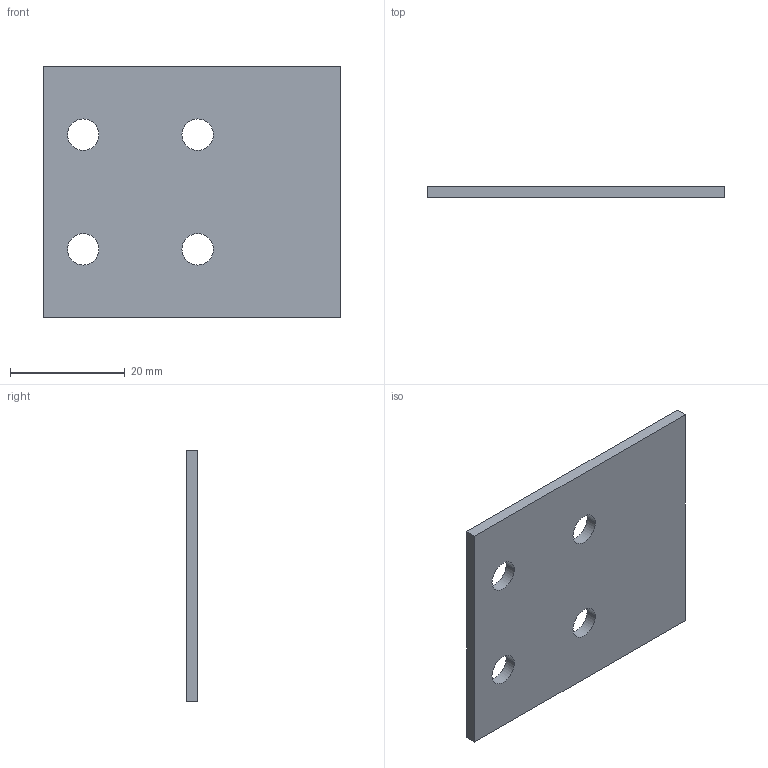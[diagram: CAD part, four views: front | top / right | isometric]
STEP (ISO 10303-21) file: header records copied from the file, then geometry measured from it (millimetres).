
FILE_DESCRIPTION( ( '' ), '1' );
FILE_NAME( 'E:/04 嬴檜蠱滌/0404 ZIMMER/040414 ZIMMER CAD download/Adapt plate/PLK for LKP, LKPS/PLK20-2.stp', '2020-04-16T10:19:39', ( '' ), ( '' ), ' ', ' ', ' ' );
FILE_SCHEMA( ( 'automotive_design' ) );
Length unit declared in the file: millimetre
Products named in the file (1): 1
Bounding box: 52 x 2 x 44 mm (x, y, z)
Volume: 4385.9 mm3; surface area: 4908.2 mm2
Topology: 1 solids, 1 shells, 14 faces, 36 edges, 24 vertices
Faces by surface type: cylinder 8, plane 6
Entity records: 888 total; most frequent: DIRECTION 82, STYLED_ITEM 75, PRESENTATION_STYLE_ASSIGNMENT 75, CARTESIAN_POINT 75, COLOUR_RGB 75, ORIENTED_EDGE 72, EDGE_CURVE 36, CURVE_STYLE 36
